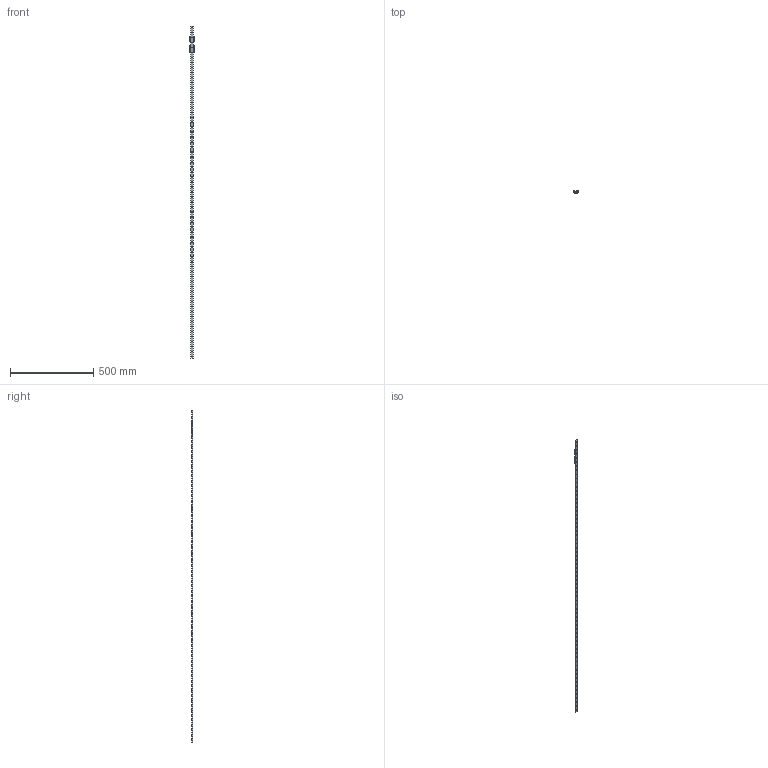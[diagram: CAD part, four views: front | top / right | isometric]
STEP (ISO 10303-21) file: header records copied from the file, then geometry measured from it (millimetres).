
FILE_DESCRIPTION((''),'2;1');
FILE_NAME('BMWHS7-XX2-2000-CAT_ASM','2022-09-29T11:07:06',('SEDY4338'),('Ewellix'),'CREO PARAMETRIC BY PTC INC, 2020281','CREO PARAMETRIC BY PTC INC, 2020281','');
FILE_SCHEMA(('CONFIG_CONTROL_DESIGN'));
Length unit declared in the file: millimetre
Products named in the file (11): LLSWR7-2000-CAT_AF1; LLSWC07_TA_PROCESS_DRAWING_AF3; LLSWC07_LA_PROCESS_DRAWING_AF0; KH-LLSWC7_TA; KH-LLSW7-L-00; CJ-LLSW7-AN-00; SV-LLSW7-AN-00-1ST; SV-LLSW7-AN-00-2ND; SV-LLSW7-AN-00_ASM; VS-CP-M1_6-04-H0-01; BMWHS7-XX2-2000-CAT_ASM
Assembly tree (25 placements, depth 3):
  BMWHS7-XX2-2000-CAT_ASM
    LLSWR7-2000-CAT_AF1
    LLSWC07_TA_PROCESS_DRAWING_AF3
    LLSWC07_LA_PROCESS_DRAWING_AF0
    KH-LLSWC7_TA  x2
    KH-LLSW7-L-00  x2
    CJ-LLSW7-AN-00  x4
    SV-LLSW7-AN-00_ASM  x4
      SV-LLSW7-AN-00-1ST
      SV-LLSW7-AN-00-2ND
    VS-CP-M1_6-04-H0-01  x8
Bounding box: 25 x 9 x 2000 mm (x, y, z)
Volume: 142579 mm3; surface area: 92561.9 mm2
Topology: 27 solids, 27 shells, 3169 faces, 8168 edges, 5210 vertices
Faces by surface type: cylinder 1258, plane 1089, bspline 368, cone 366, torus 64, sphere 24
Entity records: 44177 total; most frequent: CARTESIAN_POINT 10395, DIRECTION 7265, ORIENTED_EDGE 6754, EDGE_CURVE 3377, AXIS2_PLACEMENT_3D 2726, VERTEX_POINT 2134, VECTOR 1813, LINE 1813
